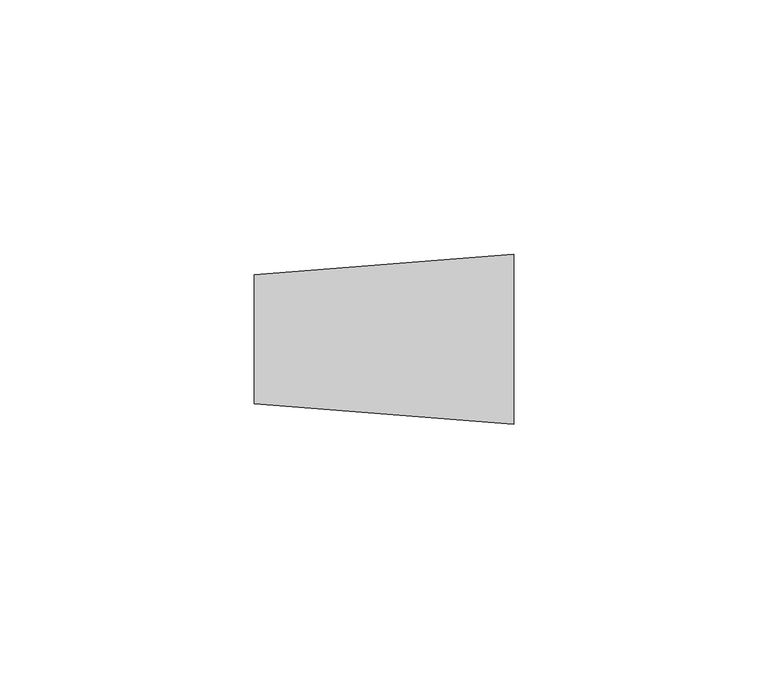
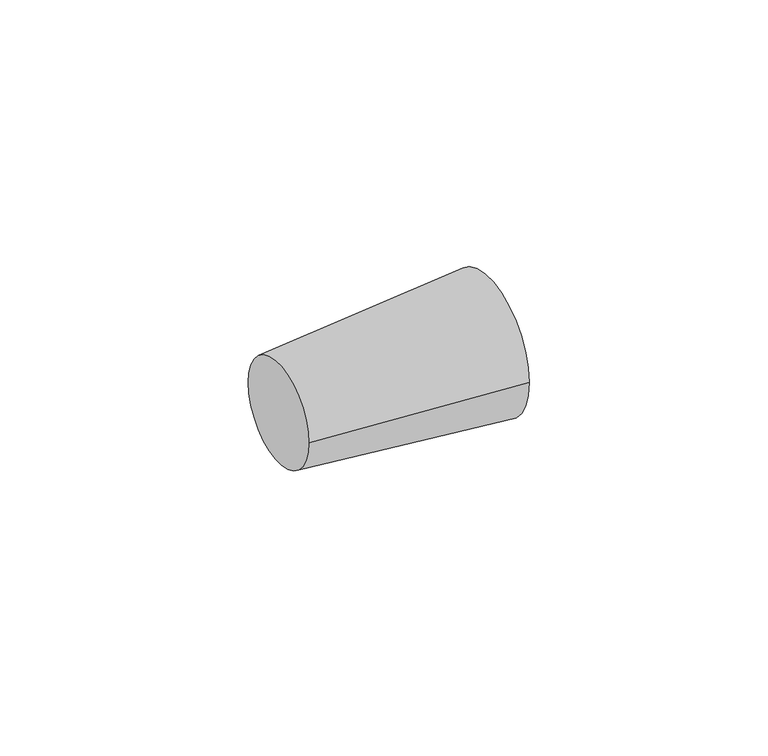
"""IFC4 building model written with IfcOpenShell, lengths in millimetres: pipe fitting geometry, 过渡件 - 常规 : 标准."""

from ifc_helpers import new_model, si_unit, frame, origin, place, context, project, spatial, polyline, circle_curve, source, transform, mapped, element, save
from ifc_brep_helpers import plane_surface, revolved_surface, advanced_brep


def pipe_fitting_eb17f4a4(model_context):
    return source(origin(), model_context, "Body", "AdvancedBrep", [
        advanced_brep(
        [(51.0, 16.7, 0.0), (51.0, -16.7, 0.0), (0.0, 12.7089844, 0.0), (0.0, -12.7089844, 0.0)],
        [
            (0, 1, circle_curve(frame((51.0, 0.0, 0.0), z_axis=(1.0, 0.0, 0.0), x_axis=(0.0, -1.0, 0.0)), 16.7)),
            (1, 0, circle_curve(frame((51.0, 0.0, 0.0), z_axis=(1.0, 0.0, 0.0), x_axis=(0.0, 1.0, 0.0)), 16.7)),
            (2, 3, circle_curve(frame((0.0, 0.0, 0.0), z_axis=(-1.0, 0.0, 0.0), x_axis=(0.0, 1.0, 0.0)), 12.7089844)),
            (3, 2, circle_curve(frame((0.0, 0.0, 0.0), z_axis=(-1.0, 0.0, 0.0), x_axis=(0.0, -1.0, 0.0)), 12.7089844)),
            (2, 0),
            (1, 3),
        ],
        [
            plane_surface(frame((51.0, 0.0, 0.0), z_axis=(1.0, 0.0, 0.0), x_axis=(0.0, 0.0, -1.0))),
            plane_surface(frame((0.0, 0.0, 0.0), z_axis=(-1.0, 0.0, 0.0), x_axis=(0.0, 0.0, -1.0))),
            revolved_surface(polyline([(0.0, 12.708984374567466, 0.0), (51.0, 16.7, 0.0)]), (-162.4043261, 0.0, 0.0), (1.0, 0.0, 0.0)),
            revolved_surface(polyline([(0.0, -12.708984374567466, 0.0), (51.0, -16.7, 0.0)]), (-162.4043261, 0.0, 0.0), (1.0, 0.0, 0.0)),
        ],
        [
            (0, [[1, 2]]),
            (1, [[3, 4]]),
            (2, [[5, -2, 6, -3]]),
            (3, [[-6, -1, -5, -4]]),
        ],
    ),
    ])


if __name__ == "__main__":
    model = new_model("IFC4")
    model_context = context("Model", 3, world=origin())
    ifc_project = project(units=[si_unit("LENGTHUNIT", "METRE", prefix="MILLI")], contexts=[model_context])
    site = spatial("IfcSite", under=ifc_project)
    building = spatial("IfcBuilding", under=site)
    placement = place(None, origin())
    pipe_fitting_shape = pipe_fitting_eb17f4a4(model_context)
    element("IfcPipeFitting", 1, ObjectType="过渡件 - 常规 : 标准", at=placement, inside=building, context=model_context, shape_type="MappedRepresentation", body=[
        mapped(pipe_fitting_shape, transform((0.0, 0.0, 0.0), x_axis=(1.0, 0.0, 0.0), y_axis=(0.0, 1.0, 0.0), z_axis=(0.0, 0.0, 1.0))),
    ])
    save(model, "model.ifc")
